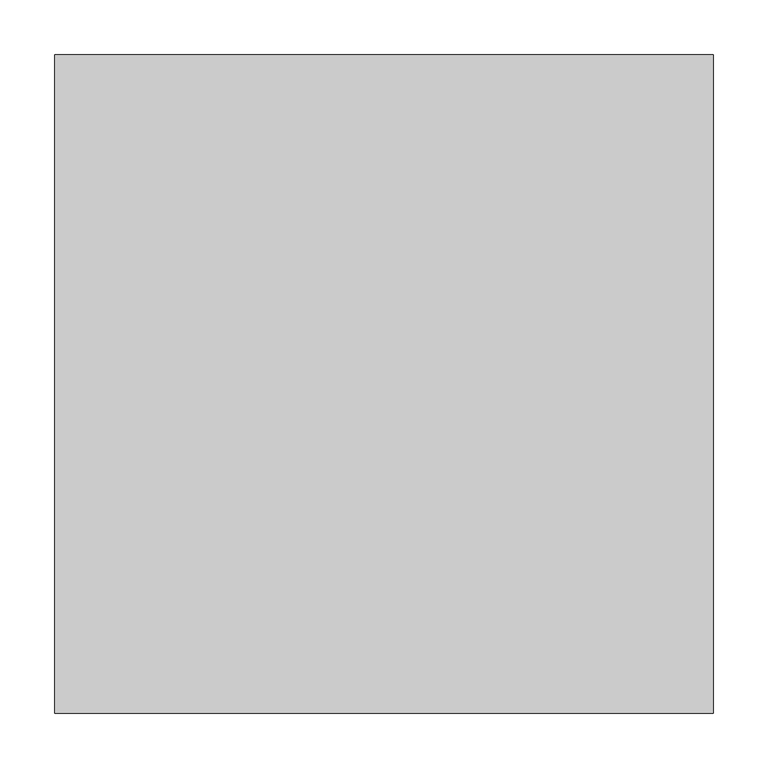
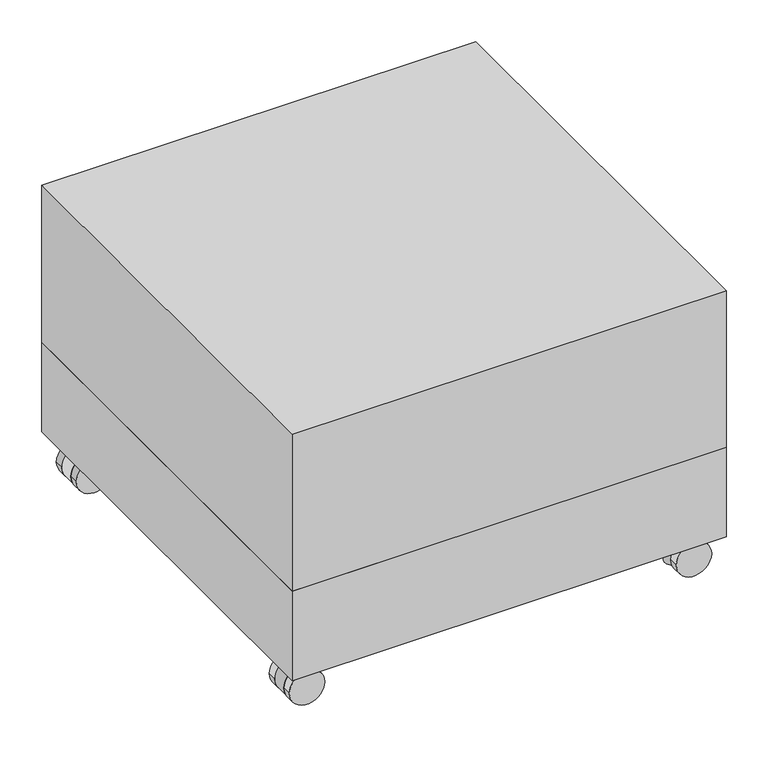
"""IFC4 building model written with IfcOpenShell, lengths in millimetres: furniture geometry, BK Library - Flipover - Small : BK Library - Flipover - Small."""

from ifc_helpers import new_model, si_unit, point, frame, frame_2d, origin, place, context, project, spatial, circle_curve, trimmed, segment, composite_curve, outline, extrude, faceted_brep, source, transform, mapped, element, save
from ifc_brep_helpers import plane_surface, cylinder_surface, advanced_brep


def furniture_2e75734d(model_context):
    return source(origin(), model_context, "Body", "SolidModel", [
        faceted_brep([(300.0, 300.0, 418.6782608), (-300.0, 300.0, 418.6782608), (-300.0, -300.0, 418.6782608), (300.0, -300.0, 418.6782608), (300.0, 300.0, 189.6782608), (300.0, -300.0, 189.6782608), (-300.0, -300.0, 189.6782608), (-300.0, 300.0, 189.6782608), (-9.5, 281.0, 189.6782608), (-279.0, 281.0, 189.6782608), (-279.0, 9.5, 189.6782608), (-9.5, 9.5, 189.6782608), (-279.0, -9.5, 189.6782608), (-279.0, -281.0, 189.6782608), (-9.5, -281.0, 189.6782608), (-9.5, -9.5, 189.6782608), (279.0, -281.0, 189.6782608), (279.0, -9.5, 189.6782608), (9.5, -9.5, 189.6782608), (9.5, -281.0, 189.6782608), (279.0, 281.0, 189.6782608), (9.5, 281.0, 189.6782608), (9.5, 9.5, 189.6782608), (279.0, 9.5, 189.6782608), (300.0, 300.0, 394.6782608), (-300.0, 300.0, 394.6782608), (-300.0, -300.0, 394.6782608), (300.0, -300.0, 394.6782608), (-9.5, 9.5, 394.6782608), (-9.5, 281.0, 394.6782608), (-279.0, 9.5, 394.6782608), (-279.0, 281.0, 394.6782608), (-9.5, -9.5, 394.6782608), (-279.0, -9.5, 394.6782608), (-9.5, -281.0, 394.6782608), (-279.0, -281.0, 394.6782608), (9.5, -281.0, 394.6782608), (279.0, -281.0, 394.6782608), (9.5, -9.5, 394.6782608), (279.0, -9.5, 394.6782608), (279.0, 9.5, 394.6782608), (279.0, 281.0, 394.6782608), (9.5, 9.5, 394.6782608), (9.5, 281.0, 394.6782608)], [[[0, 1, 2, 3]], [[4, 5, 6, 7], [8, 9, 10, 11], [12, 13, 14, 15], [16, 17, 18, 19], [20, 21, 22, 23]], [[1, 0, 24, 4, 7, 25]], [[2, 1, 25, 7, 6, 26]], [[3, 2, 26, 6, 5, 27]], [[0, 3, 27, 5, 4, 24]], [[8, 11, 28, 29]], [[11, 10, 30, 28]], [[10, 9, 31, 30]], [[9, 8, 29, 31]], [[12, 15, 32, 33]], [[15, 14, 34, 32]], [[14, 13, 35, 34]], [[13, 12, 33, 35]], [[16, 19, 36, 37]], [[19, 18, 38, 36]], [[18, 17, 39, 38]], [[17, 16, 37, 39]], [[20, 23, 40, 41]], [[23, 22, 42, 40]], [[22, 21, 43, 42]], [[21, 20, 41, 43]], [[29, 28, 30, 31]], [[33, 32, 34, 35]], [[37, 36, 38, 39]], [[41, 40, 42, 43]]]),
        extrude(outline(composite_curve([segment(trimmed(circle_curve(frame_2d((253.0070749, 254.962002)), 7.4539879), [point((245.5530869, 254.962002))], [point((260.4610628, 254.962002))], False, "CARTESIAN"), True, "CONTINUOUS"), segment(trimmed(circle_curve(frame_2d((253.0070749, 254.962002)), 7.4539879), [point((260.4610628, 254.962002))], [point((245.5530869, 254.962002))], False, "CARTESIAN"), True, "CONTINUOUS")], self_intersect=False)), frame((0.0, 0.0, 49.6907092), z_axis=(0.0, 0.0, 1.0), x_axis=(1.0, 0.0, 0.0)), (0.0, 0.0, 1.0), 8.9875516),
        advanced_brep(
        [(-251.467628, 244.2, 49.6907092), (-251.467628, 265.8, 49.6907092), (-267.5030829, 265.8, 49.6907092), (-267.5030829, 244.2, 49.6907092), (-251.467628, 265.8, 14.7426051), (-251.467628, 244.2, 14.7426051), (-289.8859363, 244.2, 14.7426051), (-289.8859363, 265.8, 14.7426051), (-267.5030829, 244.2, 48.7252101), (-267.5030829, 265.8, 48.7252101)],
        [
            (0, 1, circle_curve(frame((-251.467628, 255.0, 49.6907092), z_axis=(0.0, 0.0, 1.0), x_axis=(-1.0, 0.0, 0.0)), 10.8)),
            (1, 2),
            (2, 3),
            (3, 0),
            (4, 5, circle_curve(frame((-251.467628, 255.0, 14.7426051), z_axis=(0.0, 0.0, -1.0), x_axis=(-1.0, 0.0, 0.0)), 10.8)),
            (5, 6),
            (6, 7),
            (7, 4),
            (5, 0),
            (3, 8),
            (8, 6, circle_curve(frame((-267.5030829, 244.2, 24.3626051), z_axis=(0.0, -1.0, 0.0), x_axis=(-1.0, 0.0, 0.0)), 24.3626051)),
            (4, 1),
            (7, 9, circle_curve(frame((-267.5030829, 265.8, 24.3626051), z_axis=(0.0, 1.0, 0.0), x_axis=(-1.0, 0.0, 0.0)), 24.3626051)),
            (9, 2),
            (8, 9),
        ],
        [
            plane_surface(frame((-243.1404779, 244.2, 49.6907092), z_axis=(0.0, 0.0, 1.0), x_axis=(1.0, 0.0, 0.0))),
            plane_surface(frame((-243.1404779, 244.2, 14.7426051), z_axis=(0.0, 0.0, -1.0), x_axis=(-1.0, 0.0, 0.0))),
            plane_surface(frame((-301.73294, 244.2, 49.6907092), z_axis=(0.0, -1.0, 0.0), x_axis=(0.0, 0.0, -1.0))),
            cylinder_surface(frame((-251.467628, 255.0, 14.7426051), z_axis=(0.0, 0.0, 1.0), x_axis=(-1.0, 0.0, 0.0)), 10.8),
            plane_surface(frame((-251.467628, 265.8, 49.6907092), z_axis=(0.0, 1.0, 0.0), x_axis=(0.0, 0.0, -1.0))),
            cylinder_surface(frame((-267.5030829, 226.7777105, 24.3626051), z_axis=(0.0, -1.0, 0.0), x_axis=(-1.0, 0.0, 0.0)), 24.3626051),
            plane_surface(frame((-267.5030829, 276.0, 49.6907092), z_axis=(-1.0, 0.0, 0.0), x_axis=(0.0, -1.0, 0.0))),
        ],
        [
            (0, [[1, 2, 3, 4]]),
            (1, [[5, 6, 7, 8]]),
            (2, [[9, -4, 10, 11, -6]]),
            (3, [[-1, -9, -5, 12]]),
            (4, [[-12, -8, 13, 14, -2]]),
            (5, [[15, -13, -7, -11]]),
            (6, [[-15, -10, -3, -14]]),
        ],
    ),
        advanced_brep(
        [(-243.1404779, 278.8, 24.3626051), (-291.865688, 278.8, 24.3626051), (-243.1404779, 265.8, 24.3626051), (-267.5030829, 265.8, 48.7252101), (-291.865688, 265.8, 24.3626051), (-289.8859363, 265.8, 14.7426051), (-291.865688, 276.0, 24.3626051)],
        [
            (0, 1, circle_curve(frame((-267.5030829, 278.8, 24.3626051), z_axis=(0.0, 1.0, 0.0), x_axis=(-1.0, 0.0, 0.0)), 24.3626051)),
            (1, 0, circle_curve(frame((-267.5030829, 278.8, 24.3626051), z_axis=(0.0, 1.0, 0.0), x_axis=(-1.0, 0.0, 0.0)), 24.3626051)),
            (2, 3, circle_curve(frame((-267.5030829, 265.8, 24.3626051), z_axis=(0.0, -1.0, 0.0), x_axis=(-1.0, 0.0, 0.0)), 24.3626051)),
            (3, 4, circle_curve(frame((-267.5030829, 265.8, 24.3626051), z_axis=(0.0, -1.0, 0.0), x_axis=(-1.0, 0.0, 0.0)), 24.3626051)),
            (4, 5, circle_curve(frame((-267.5030829, 265.8, 24.3626051), z_axis=(0.0, -1.0, 0.0), x_axis=(-1.0, 0.0, 0.0)), 24.3626051)),
            (5, 2, circle_curve(frame((-267.5030829, 265.8, 24.3626051), z_axis=(0.0, -1.0, 0.0), x_axis=(-1.0, 0.0, 0.0)), 24.3626051)),
            (0, 2),
            (4, 6),
            (6, 1),
        ],
        [
            plane_surface(frame((-291.865688, 278.8, 24.3626051), z_axis=(0.0, 1.0, 0.0), x_axis=(0.0, 0.0, 1.0))),
            plane_surface(frame((-291.865688, 265.8, 24.3626051), z_axis=(0.0, -1.0, 0.0), x_axis=(0.0, 0.0, -1.0))),
            cylinder_surface(frame((-267.5030829, 265.8, 24.3626051), z_axis=(0.0, 1.0, 0.0), x_axis=(-1.0, 0.0, 0.0)), 24.3626051),
        ],
        [
            (0, [[1, 2]]),
            (1, [[3, 4, 5, 6]]),
            (2, [[-1, 7, -6, -5, 8, 9]]),
            (2, [[-2, -9, -8, -4, -3, -7]]),
        ],
    ),
        advanced_brep(
        [(-243.1404779, 244.2, 24.3626051), (-289.8859363, 244.2, 14.7426051), (-291.865688, 244.2, 24.3626051), (-267.5030829, 244.2, 48.7252101), (-243.1404779, 231.2, 24.3626051), (-267.5030829, 231.2, 48.7252101), (-291.865688, 231.2, 24.3626051), (-289.8859363, 231.2, 14.7426051)],
        [
            (0, 1, circle_curve(frame((-267.5030829, 244.2, 24.3626051), z_axis=(0.0, 1.0, 0.0), x_axis=(-1.0, 0.0, 0.0)), 24.3626051)),
            (1, 2, circle_curve(frame((-267.5030829, 244.2, 24.3626051), z_axis=(0.0, 1.0, 0.0), x_axis=(-1.0, 0.0, 0.0)), 24.3626051)),
            (2, 3, circle_curve(frame((-267.5030829, 244.2, 24.3626051), z_axis=(0.0, 1.0, 0.0), x_axis=(-1.0, 0.0, 0.0)), 24.3626051)),
            (3, 0, circle_curve(frame((-267.5030829, 244.2, 24.3626051), z_axis=(0.0, 1.0, 0.0), x_axis=(-1.0, 0.0, 0.0)), 24.3626051)),
            (4, 5, circle_curve(frame((-267.5030829, 231.2, 24.3626051), z_axis=(0.0, -1.0, 0.0), x_axis=(-1.0, 0.0, 0.0)), 24.3626051)),
            (5, 6, circle_curve(frame((-267.5030829, 231.2, 24.3626051), z_axis=(0.0, -1.0, 0.0), x_axis=(-1.0, 0.0, 0.0)), 24.3626051)),
            (6, 7, circle_curve(frame((-267.5030829, 231.2, 24.3626051), z_axis=(0.0, -1.0, 0.0), x_axis=(-1.0, 0.0, 0.0)), 24.3626051)),
            (7, 4, circle_curve(frame((-267.5030829, 231.2, 24.3626051), z_axis=(0.0, -1.0, 0.0), x_axis=(-1.0, 0.0, 0.0)), 24.3626051)),
            (0, 4),
            (6, 2),
        ],
        [
            plane_surface(frame((-291.865688, 244.2, 24.3626051), z_axis=(0.0, 1.0, 0.0), x_axis=(0.0, 0.0, 1.0))),
            plane_surface(frame((-291.865688, 231.2, 24.3626051), z_axis=(0.0, -1.0, 0.0), x_axis=(0.0, 0.0, -1.0))),
            cylinder_surface(frame((-267.5030829, 231.2, 24.3626051), z_axis=(0.0, 1.0, 0.0), x_axis=(-1.0, 0.0, 0.0)), 24.3626051),
        ],
        [
            (0, [[1, 2, 3, 4]]),
            (1, [[5, 6, 7, 8]]),
            (2, [[9, -8, -7, 10, -2, -1]]),
            (2, [[-9, -4, -3, -10, -6, -5]]),
        ],
    ),
        advanced_brep(
        [(251.467628, 265.8, 49.6907092), (251.467628, 244.2, 49.6907092), (267.5030829, 244.2, 49.6907092), (267.5030829, 265.8, 49.6907092), (251.467628, 244.2, 14.7426051), (251.467628, 265.8, 14.7426051), (289.8859363, 265.8, 14.7426051), (289.8859363, 244.2, 14.7426051), (267.5030829, 244.2, 48.7252101), (267.5030829, 265.8, 48.7252101)],
        [
            (0, 1, circle_curve(frame((251.467628, 255.0, 49.6907092), z_axis=(0.0, 0.0, 1.0), x_axis=(1.0, 0.0, 0.0)), 10.8)),
            (1, 2),
            (2, 3),
            (3, 0),
            (4, 5, circle_curve(frame((251.467628, 255.0, 14.7426051), z_axis=(0.0, 0.0, -1.0), x_axis=(1.0, 0.0, 0.0)), 10.8)),
            (5, 6),
            (6, 7),
            (7, 4),
            (1, 4),
            (7, 8, circle_curve(frame((267.5030829, 244.2, 24.3626051), z_axis=(0.0, -1.0, 0.0), x_axis=(1.0, 0.0, 0.0)), 24.3626051)),
            (8, 2),
            (0, 5),
            (3, 9),
            (9, 6, circle_curve(frame((267.5030829, 265.8, 24.3626051), z_axis=(0.0, 1.0, 0.0), x_axis=(1.0, 0.0, 0.0)), 24.3626051)),
            (9, 8),
        ],
        [
            plane_surface(frame((301.73294, 244.2, 49.6907092), z_axis=(0.0, 0.0, 1.0), x_axis=(0.0, 1.0, 0.0))),
            plane_surface(frame((301.73294, 244.2, 14.7426051), z_axis=(0.0, 0.0, -1.0), x_axis=(0.0, -1.0, 0.0))),
            plane_surface(frame((251.467628, 244.2, 49.6907092), z_axis=(0.0, -1.0, 0.0), x_axis=(0.0, 0.0, -1.0))),
            cylinder_surface(frame((251.467628, 255.0, 14.7426051), z_axis=(0.0, 0.0, 1.0), x_axis=(1.0, 0.0, 0.0)), 10.8),
            plane_surface(frame((301.73294, 265.8, 49.6907092), z_axis=(0.0, 1.0, 0.0), x_axis=(0.0, 0.0, -1.0))),
            cylinder_surface(frame((267.5030829, 226.7777105, 24.3626051), z_axis=(0.0, -1.0, 0.0), x_axis=(1.0, 0.0, 0.0)), 24.3626051),
            plane_surface(frame((267.5030829, 276.0, 48.7252101), z_axis=(1.0, 0.0, 0.0), x_axis=(0.0, -1.0, 0.0))),
        ],
        [
            (0, [[1, 2, 3, 4]]),
            (1, [[5, 6, 7, 8]]),
            (2, [[9, -8, 10, 11, -2]]),
            (3, [[-1, 12, -5, -9]]),
            (4, [[-12, -4, 13, 14, -6]]),
            (5, [[15, -10, -7, -14]]),
            (6, [[-15, -13, -3, -11]]),
        ],
    ),
        advanced_brep(
        [(243.1404779, 278.8, 24.3626051), (291.865688, 278.8, 24.3626051), (243.1404779, 265.8, 24.3626051), (289.8859363, 265.8, 14.7426051), (291.865688, 265.8, 24.3626051), (267.5030829, 265.8, 48.7252101), (291.865688, 276.0, 24.3626051)],
        [
            (0, 1, circle_curve(frame((267.5030829, 278.8, 24.3626051), z_axis=(0.0, 1.0, 0.0), x_axis=(1.0, 0.0, 0.0)), 24.3626051)),
            (1, 0, circle_curve(frame((267.5030829, 278.8, 24.3626051), z_axis=(0.0, 1.0, 0.0), x_axis=(1.0, 0.0, 0.0)), 24.3626051)),
            (2, 3, circle_curve(frame((267.5030829, 265.8, 24.3626051), z_axis=(0.0, -1.0, 0.0), x_axis=(1.0, 0.0, 0.0)), 24.3626051)),
            (3, 4, circle_curve(frame((267.5030829, 265.8, 24.3626051), z_axis=(0.0, -1.0, 0.0), x_axis=(1.0, 0.0, 0.0)), 24.3626051)),
            (4, 5, circle_curve(frame((267.5030829, 265.8, 24.3626051), z_axis=(0.0, -1.0, 0.0), x_axis=(1.0, 0.0, 0.0)), 24.3626051)),
            (5, 2, circle_curve(frame((267.5030829, 265.8, 24.3626051), z_axis=(0.0, -1.0, 0.0), x_axis=(1.0, 0.0, 0.0)), 24.3626051)),
            (1, 6),
            (6, 4),
            (2, 0),
        ],
        [
            plane_surface(frame((291.865688, 278.8, 24.3626051), z_axis=(0.0, 1.0, 0.0), x_axis=(0.0, 0.0, -1.0))),
            plane_surface(frame((291.865688, 265.8, 24.3626051), z_axis=(0.0, -1.0, 0.0), x_axis=(0.0, 0.0, 1.0))),
            cylinder_surface(frame((267.5030829, 265.8, 24.3626051), z_axis=(0.0, 1.0, 0.0), x_axis=(1.0, 0.0, 0.0)), 24.3626051),
        ],
        [
            (0, [[1, 2]]),
            (1, [[3, 4, 5, 6]]),
            (2, [[-2, 7, 8, -4, -3, 9]]),
            (2, [[-1, -9, -6, -5, -8, -7]]),
        ],
    ),
        advanced_brep(
        [(243.1404779, 244.2, 24.3626051), (267.5030829, 244.2, 48.7252101), (291.865688, 244.2, 24.3626051), (289.8859363, 244.2, 14.7426051), (243.1404779, 231.2, 24.3626051), (289.8859363, 231.2, 14.7426051), (291.865688, 231.2, 24.3626051), (267.5030829, 231.2, 48.7252101)],
        [
            (0, 1, circle_curve(frame((267.5030829, 244.2, 24.3626051), z_axis=(0.0, 1.0, 0.0), x_axis=(1.0, 0.0, 0.0)), 24.3626051)),
            (1, 2, circle_curve(frame((267.5030829, 244.2, 24.3626051), z_axis=(0.0, 1.0, 0.0), x_axis=(1.0, 0.0, 0.0)), 24.3626051)),
            (2, 3, circle_curve(frame((267.5030829, 244.2, 24.3626051), z_axis=(0.0, 1.0, 0.0), x_axis=(1.0, 0.0, 0.0)), 24.3626051)),
            (3, 0, circle_curve(frame((267.5030829, 244.2, 24.3626051), z_axis=(0.0, 1.0, 0.0), x_axis=(1.0, 0.0, 0.0)), 24.3626051)),
            (4, 5, circle_curve(frame((267.5030829, 231.2, 24.3626051), z_axis=(0.0, -1.0, 0.0), x_axis=(1.0, 0.0, 0.0)), 24.3626051)),
            (5, 6, circle_curve(frame((267.5030829, 231.2, 24.3626051), z_axis=(0.0, -1.0, 0.0), x_axis=(1.0, 0.0, 0.0)), 24.3626051)),
            (6, 7, circle_curve(frame((267.5030829, 231.2, 24.3626051), z_axis=(0.0, -1.0, 0.0), x_axis=(1.0, 0.0, 0.0)), 24.3626051)),
            (7, 4, circle_curve(frame((267.5030829, 231.2, 24.3626051), z_axis=(0.0, -1.0, 0.0), x_axis=(1.0, 0.0, 0.0)), 24.3626051)),
            (2, 6),
            (4, 0),
        ],
        [
            plane_surface(frame((291.865688, 244.2, 24.3626051), z_axis=(0.0, 1.0, 0.0), x_axis=(0.0, 0.0, -1.0))),
            plane_surface(frame((291.865688, 231.2, 24.3626051), z_axis=(0.0, -1.0, 0.0), x_axis=(0.0, 0.0, 1.0))),
            cylinder_surface(frame((267.5030829, 231.2, 24.3626051), z_axis=(0.0, 1.0, 0.0), x_axis=(1.0, 0.0, 0.0)), 24.3626051),
        ],
        [
            (0, [[1, 2, 3, 4]]),
            (1, [[5, 6, 7, 8]]),
            (2, [[9, -6, -5, 10, -4, -3]]),
            (2, [[-9, -2, -1, -10, -8, -7]]),
        ],
    ),
        extrude(outline(composite_curve([segment(trimmed(circle_curve(frame_2d((-253.0070749, 254.962002)), 7.4539879), [point((-245.5530869, 254.962002))], [point((-260.4610628, 254.962002))], False, "CARTESIAN"), True, "CONTINUOUS"), segment(trimmed(circle_curve(frame_2d((-253.0070749, 254.962002)), 7.4539879), [point((-260.4610628, 254.962002))], [point((-245.5530869, 254.962002))], False, "CARTESIAN"), True, "CONTINUOUS")], self_intersect=False)), frame((0.0, 0.0, 49.6907092), z_axis=(0.0, 0.0, 1.0), x_axis=(1.0, 0.0, 0.0)), (0.0, 0.0, 1.0), 8.9875516),
        advanced_brep(
        [(-251.467628, -265.8, 49.6907092), (-251.467628, -244.2, 49.6907092), (-267.5030829, -244.2, 49.6907092), (-267.5030829, -265.8, 49.6907092), (-251.467628, -244.2, 14.7426051), (-251.467628, -265.8, 14.7426051), (-289.8859363, -265.8, 14.7426051), (-289.8859363, -244.2, 14.7426051), (-267.5030829, -244.2, 48.7252101), (-267.5030829, -265.8, 48.7252101)],
        [
            (0, 1, circle_curve(frame((-251.467628, -255.0, 49.6907092), z_axis=(0.0, 0.0, 1.0), x_axis=(-1.0, 0.0, 0.0)), 10.8)),
            (1, 2),
            (2, 3),
            (3, 0),
            (4, 5, circle_curve(frame((-251.467628, -255.0, 14.7426051), z_axis=(0.0, 0.0, -1.0), x_axis=(-1.0, 0.0, 0.0)), 10.8)),
            (5, 6),
            (6, 7),
            (7, 4),
            (1, 4),
            (7, 8, circle_curve(frame((-267.5030829, -244.2, 24.3626051), z_axis=(0.0, 1.0, 0.0), x_axis=(-1.0, 0.0, 0.0)), 24.3626051)),
            (8, 2),
            (0, 5),
            (3, 9),
            (9, 6, circle_curve(frame((-267.5030829, -265.8, 24.3626051), z_axis=(0.0, -1.0, 0.0), x_axis=(-1.0, 0.0, 0.0)), 24.3626051)),
            (9, 8),
        ],
        [
            plane_surface(frame((-301.73294, -244.2, 49.6907092), z_axis=(0.0, 0.0, 1.0), x_axis=(0.0, -1.0, 0.0))),
            plane_surface(frame((-301.73294, -244.2, 14.7426051), z_axis=(0.0, 0.0, -1.0), x_axis=(0.0, 1.0, 0.0))),
            plane_surface(frame((-251.467628, -244.2, 49.6907092), z_axis=(0.0, 1.0, 0.0), x_axis=(0.0, 0.0, -1.0))),
            cylinder_surface(frame((-251.467628, -255.0, 14.7426051), z_axis=(0.0, 0.0, 1.0), x_axis=(-1.0, 0.0, 0.0)), 10.8),
            plane_surface(frame((-301.73294, -265.8, 49.6907092), z_axis=(0.0, -1.0, 0.0), x_axis=(0.0, 0.0, -1.0))),
            cylinder_surface(frame((-267.5030829, -226.7777105, 24.3626051), z_axis=(0.0, 1.0, 0.0), x_axis=(-1.0, 0.0, 0.0)), 24.3626051),
            plane_surface(frame((-267.5030829, -276.0, 48.7252101), z_axis=(-1.0, 0.0, 0.0), x_axis=(0.0, 1.0, 0.0))),
        ],
        [
            (0, [[1, 2, 3, 4]]),
            (1, [[5, 6, 7, 8]]),
            (2, [[9, -8, 10, 11, -2]]),
            (3, [[-1, 12, -5, -9]]),
            (4, [[-12, -4, 13, 14, -6]]),
            (5, [[15, -10, -7, -14]]),
            (6, [[-15, -13, -3, -11]]),
        ],
    ),
        advanced_brep(
        [(-243.1404779, -278.8, 24.3626051), (-291.865688, -278.8, 24.3626051), (-243.1404779, -265.8, 24.3626051), (-289.8859363, -265.8, 14.7426051), (-291.865688, -265.8, 24.3626051), (-267.5030829, -265.8, 48.7252101), (-291.865688, -276.0, 24.3626051)],
        [
            (0, 1, circle_curve(frame((-267.5030829, -278.8, 24.3626051), z_axis=(0.0, -1.0, 0.0), x_axis=(-1.0, 0.0, 0.0)), 24.3626051)),
            (1, 0, circle_curve(frame((-267.5030829, -278.8, 24.3626051), z_axis=(0.0, -1.0, 0.0), x_axis=(-1.0, 0.0, 0.0)), 24.3626051)),
            (2, 3, circle_curve(frame((-267.5030829, -265.8, 24.3626051), z_axis=(0.0, 1.0, 0.0), x_axis=(-1.0, 0.0, 0.0)), 24.3626051)),
            (3, 4, circle_curve(frame((-267.5030829, -265.8, 24.3626051), z_axis=(0.0, 1.0, 0.0), x_axis=(-1.0, 0.0, 0.0)), 24.3626051)),
            (4, 5, circle_curve(frame((-267.5030829, -265.8, 24.3626051), z_axis=(0.0, 1.0, 0.0), x_axis=(-1.0, 0.0, 0.0)), 24.3626051)),
            (5, 2, circle_curve(frame((-267.5030829, -265.8, 24.3626051), z_axis=(0.0, 1.0, 0.0), x_axis=(-1.0, 0.0, 0.0)), 24.3626051)),
            (1, 6),
            (6, 4),
            (2, 0),
        ],
        [
            plane_surface(frame((-291.865688, -278.8, 24.3626051), z_axis=(0.0, -1.0, 0.0), x_axis=(0.0, 0.0, -1.0))),
            plane_surface(frame((-291.865688, -265.8, 24.3626051), z_axis=(0.0, 1.0, 0.0), x_axis=(0.0, 0.0, 1.0))),
            cylinder_surface(frame((-267.5030829, -265.8, 24.3626051), z_axis=(0.0, -1.0, 0.0), x_axis=(-1.0, 0.0, 0.0)), 24.3626051),
        ],
        [
            (0, [[1, 2]]),
            (1, [[3, 4, 5, 6]]),
            (2, [[-2, 7, 8, -4, -3, 9]]),
            (2, [[-1, -9, -6, -5, -8, -7]]),
        ],
    ),
        advanced_brep(
        [(-243.1404779, -244.2, 24.3626051), (-267.5030829, -244.2, 48.7252101), (-291.865688, -244.2, 24.3626051), (-289.8859363, -244.2, 14.7426051), (-243.1404779, -231.2, 24.3626051), (-289.8859363, -231.2, 14.7426051), (-291.865688, -231.2, 24.3626051), (-267.5030829, -231.2, 48.7252101)],
        [
            (0, 1, circle_curve(frame((-267.5030829, -244.2, 24.3626051), z_axis=(0.0, -1.0, 0.0), x_axis=(-1.0, 0.0, 0.0)), 24.3626051)),
            (1, 2, circle_curve(frame((-267.5030829, -244.2, 24.3626051), z_axis=(0.0, -1.0, 0.0), x_axis=(-1.0, 0.0, 0.0)), 24.3626051)),
            (2, 3, circle_curve(frame((-267.5030829, -244.2, 24.3626051), z_axis=(0.0, -1.0, 0.0), x_axis=(-1.0, 0.0, 0.0)), 24.3626051)),
            (3, 0, circle_curve(frame((-267.5030829, -244.2, 24.3626051), z_axis=(0.0, -1.0, 0.0), x_axis=(-1.0, 0.0, 0.0)), 24.3626051)),
            (4, 5, circle_curve(frame((-267.5030829, -231.2, 24.3626051), z_axis=(0.0, 1.0, 0.0), x_axis=(-1.0, 0.0, 0.0)), 24.3626051)),
            (5, 6, circle_curve(frame((-267.5030829, -231.2, 24.3626051), z_axis=(0.0, 1.0, 0.0), x_axis=(-1.0, 0.0, 0.0)), 24.3626051)),
            (6, 7, circle_curve(frame((-267.5030829, -231.2, 24.3626051), z_axis=(0.0, 1.0, 0.0), x_axis=(-1.0, 0.0, 0.0)), 24.3626051)),
            (7, 4, circle_curve(frame((-267.5030829, -231.2, 24.3626051), z_axis=(0.0, 1.0, 0.0), x_axis=(-1.0, 0.0, 0.0)), 24.3626051)),
            (2, 6),
            (4, 0),
        ],
        [
            plane_surface(frame((-291.865688, -244.2, 24.3626051), z_axis=(0.0, -1.0, 0.0), x_axis=(0.0, 0.0, -1.0))),
            plane_surface(frame((-291.865688, -231.2, 24.3626051), z_axis=(0.0, 1.0, 0.0), x_axis=(0.0, 0.0, 1.0))),
            cylinder_surface(frame((-267.5030829, -231.2, 24.3626051), z_axis=(0.0, -1.0, 0.0), x_axis=(-1.0, 0.0, 0.0)), 24.3626051),
        ],
        [
            (0, [[1, 2, 3, 4]]),
            (1, [[5, 6, 7, 8]]),
            (2, [[9, -6, -5, 10, -4, -3]]),
            (2, [[-9, -2, -1, -10, -8, -7]]),
        ],
    ),
        extrude(outline(composite_curve([segment(trimmed(circle_curve(frame_2d((24.3626051, 267.5030829)), 24.3626051), [point((24.3626051, 243.1404779))], [point((24.3626051, 291.865688))], False, "CARTESIAN"), True, "CONTINUOUS"), segment(trimmed(circle_curve(frame_2d((24.3626051, 267.5030829)), 24.3626051), [point((24.3626051, 291.865688))], [point((24.3626051, 243.1404779))], False, "CARTESIAN"), True, "CONTINUOUS")], self_intersect=False)), frame((0.0, -278.8, 0.0), z_axis=(0.0, 1.0, 0.0), x_axis=(0.0, 0.0, 1.0)), (0.0, 0.0, 1.0), 13.0),
        extrude(outline(composite_curve([segment(trimmed(circle_curve(frame_2d((24.3626051, 267.5030829)), 24.3626051), [point((24.3626051, 243.1404779))], [point((24.3626051, 291.865688))], False, "CARTESIAN"), True, "CONTINUOUS"), segment(trimmed(circle_curve(frame_2d((24.3626051, 267.5030829)), 24.3626051), [point((24.3626051, 291.865688))], [point((24.3626051, 243.1404779))], False, "CARTESIAN"), True, "CONTINUOUS")], self_intersect=False)), frame((0.0, -244.2, 0.0), z_axis=(0.0, 1.0, 0.0), x_axis=(0.0, 0.0, 1.0)), (0.0, 0.0, 1.0), 13.0),
        extrude(outline(composite_curve([segment(trimmed(circle_curve(frame_2d((-253.0070749, -254.962002)), 7.4539879), [point((-245.5530869, -254.962002))], [point((-260.4610628, -254.962002))], False, "CARTESIAN"), True, "CONTINUOUS"), segment(trimmed(circle_curve(frame_2d((-253.0070749, -254.962002)), 7.4539879), [point((-260.4610628, -254.962002))], [point((-245.5530869, -254.962002))], False, "CARTESIAN"), True, "CONTINUOUS")], self_intersect=False)), frame((0.0, 0.0, 49.6907092), z_axis=(0.0, 0.0, 1.0), x_axis=(1.0, 0.0, 0.0)), (0.0, 0.0, 1.0), 8.9875516),
        extrude(outline(composite_curve([segment(trimmed(circle_curve(frame_2d((253.0070749, -254.962002)), 7.4539879), [point((245.5530869, -254.962002))], [point((260.4610628, -254.962002))], False, "CARTESIAN"), True, "CONTINUOUS"), segment(trimmed(circle_curve(frame_2d((253.0070749, -254.962002)), 7.4539879), [point((260.4610628, -254.962002))], [point((245.5530869, -254.962002))], False, "CARTESIAN"), True, "CONTINUOUS")], self_intersect=False)), frame((0.0, 0.0, 49.6907092), z_axis=(0.0, 0.0, 1.0), x_axis=(1.0, 0.0, 0.0)), (0.0, 0.0, 1.0), 8.9875516),
        advanced_brep(
        [(251.467628, -244.2, 49.6907092), (251.467628, -265.8, 49.6907092), (267.5030829, -265.8, 49.6907092), (267.5030829, -244.2, 49.6907092), (251.467628, -265.8, 14.7426051), (251.467628, -244.2, 14.7426051), (289.8859363, -244.2, 14.7426051), (289.8859363, -265.8, 14.7426051), (267.5030829, -244.2, 48.7252101), (267.5030829, -265.8, 48.7252101)],
        [
            (0, 1, circle_curve(frame((251.467628, -255.0, 49.6907092), z_axis=(0.0, 0.0, 1.0), x_axis=(1.0, 0.0, 0.0)), 10.8)),
            (1, 2),
            (2, 3),
            (3, 0),
            (4, 5, circle_curve(frame((251.467628, -255.0, 14.7426051), z_axis=(0.0, 0.0, -1.0), x_axis=(1.0, 0.0, 0.0)), 10.8)),
            (5, 6),
            (6, 7),
            (7, 4),
            (5, 0),
            (3, 8),
            (8, 6, circle_curve(frame((267.5030829, -244.2, 24.3626051), z_axis=(0.0, 1.0, 0.0), x_axis=(1.0, 0.0, 0.0)), 24.3626051)),
            (4, 1),
            (7, 9, circle_curve(frame((267.5030829, -265.8, 24.3626051), z_axis=(0.0, -1.0, 0.0), x_axis=(1.0, 0.0, 0.0)), 24.3626051)),
            (9, 2),
            (8, 9),
        ],
        [
            plane_surface(frame((243.1404779, -244.2, 49.6907092), z_axis=(0.0, 0.0, 1.0), x_axis=(-1.0, 0.0, 0.0))),
            plane_surface(frame((243.1404779, -244.2, 14.7426051), z_axis=(0.0, 0.0, -1.0), x_axis=(1.0, 0.0, 0.0))),
            plane_surface(frame((301.73294, -244.2, 49.6907092), z_axis=(0.0, 1.0, 0.0), x_axis=(0.0, 0.0, -1.0))),
            cylinder_surface(frame((251.467628, -255.0, 14.7426051), z_axis=(0.0, 0.0, 1.0), x_axis=(1.0, 0.0, 0.0)), 10.8),
            plane_surface(frame((251.467628, -265.8, 49.6907092), z_axis=(0.0, -1.0, 0.0), x_axis=(0.0, 0.0, -1.0))),
            cylinder_surface(frame((267.5030829, -226.7777105, 24.3626051), z_axis=(0.0, 1.0, 0.0), x_axis=(1.0, 0.0, 0.0)), 24.3626051),
            plane_surface(frame((267.5030829, -276.0, 49.6907092), z_axis=(1.0, 0.0, 0.0), x_axis=(0.0, 1.0, 0.0))),
        ],
        [
            (0, [[1, 2, 3, 4]]),
            (1, [[5, 6, 7, 8]]),
            (2, [[9, -4, 10, 11, -6]]),
            (3, [[-1, -9, -5, 12]]),
            (4, [[-12, -8, 13, 14, -2]]),
            (5, [[15, -13, -7, -11]]),
            (6, [[-15, -10, -3, -14]]),
        ],
    ),
        faceted_brep([(300.0, 300.0, 189.6782608), (-300.0, 300.0, 189.6782608), (-300.0, -300.0, 189.6782608), (300.0, -300.0, 189.6782608), (-279.0, -281.0, 189.6782608), (-279.0, 281.0, 189.6782608), (279.0, 281.0, 189.6782608), (279.0, -281.0, 189.6782608), (300.0, 300.0, 58.6782608), (300.0, -300.0, 58.6782608), (-300.0, -300.0, 58.6782608), (-300.0, 300.0, 58.6782608), (-279.0, -281.0, 79.6782608), (-279.0, 281.0, 79.6782608), (279.0, 281.0, 79.6782608), (279.0, -281.0, 79.6782608)], [[[0, 1, 2, 3], [4, 5, 6, 7]], [[8, 9, 10, 11]], [[1, 0, 8, 11]], [[2, 1, 11, 10]], [[3, 2, 10, 9]], [[0, 3, 9, 8]], [[5, 4, 12, 13]], [[6, 5, 13, 14]], [[7, 6, 14, 15]], [[4, 7, 15, 12]], [[13, 12, 15, 14]]]),
    ])


if __name__ == "__main__":
    model = new_model("IFC4")
    model_context = context("Model", 3, world=origin())
    ifc_project = project(units=[si_unit("LENGTHUNIT", "METRE", prefix="MILLI")], contexts=[model_context])
    site = spatial("IfcSite", under=ifc_project)
    building = spatial("IfcBuilding", under=site)
    placement = place(None, origin())
    furniture_shape = furniture_2e75734d(model_context)
    element("IfcFurniture", 1, ObjectType="BK Library - Flipover - Small : BK Library - Flipover - Small", at=placement, inside=building, context=model_context, shape_type="MappedRepresentation", body=[
        mapped(furniture_shape, transform((0.0, 0.0, 0.0), x_axis=(1.0, 0.0, 0.0), y_axis=(0.0, 1.0, 0.0), z_axis=(0.0, 0.0, 1.0))),
    ])
    save(model, "model.ifc")
